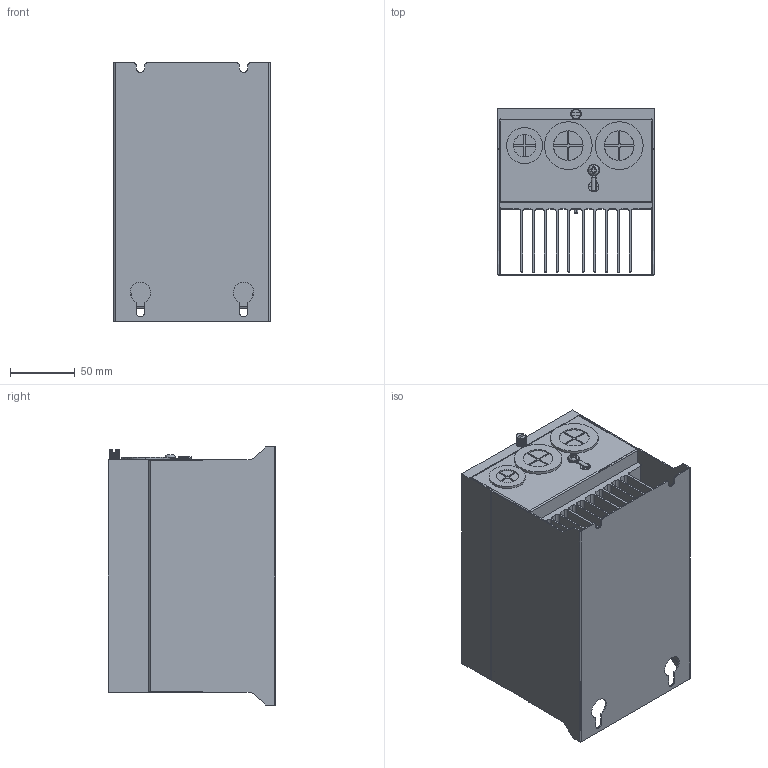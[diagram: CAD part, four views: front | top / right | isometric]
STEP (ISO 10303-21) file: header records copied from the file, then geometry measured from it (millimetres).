
FILE_DESCRIPTION((''),'2;1');
FILE_NAME('BRAKE_2015_ASM','2017-11-22T',('COLA.LIU'),(''),'PRO/ENGINEER BY PARAMETRIC TECHNOLOGY CORPORATION, 2012010','PRO/ENGINEER BY PARAMETRIC TECHNOLOGY CORPORATION, 2012010','');
FILE_SCHEMA(('AUTOMOTIVE_DESIGN { 1 2 10303 214 0 1 1 1 }'));
Length unit declared in the file: millimetre
Products named in the file (16): BODY-UP_33050197__; BODY-TOP_33050197__; HEAT_SINK__; SCREW_M4_31023___; STAND_OFF_01___; STAND_OFF_02___; OHD3-95M___; SCREW_M3_31003___; RUBBER_32400613__; RUBBER_32400612__; COVERY_33050195__; NAMEPLATE_32006436__; BRK-COVERY_____ASM; SCREW_31050362__; TERMINAL_30411042____; BRAKE_2015_ASM
Assembly tree (19 placements, depth 3):
  BRAKE_2015_ASM
    BODY-UP_33050197__
    BODY-TOP_33050197__
    HEAT_SINK__
    SCREW_M4_31023___  x4
    STAND_OFF_01___
    STAND_OFF_02___
    OHD3-95M___
    SCREW_M3_31003___
    RUBBER_32400613__
    RUBBER_32400612__  x2
    BRK-COVERY_____ASM
      COVERY_33050195__
      NAMEPLATE_32006436__
    SCREW_31050362__
    TERMINAL_30411042____
Bounding box: 121 x 129.5 x 200 mm (x, y, z)
Volume: 292544.6 mm3; surface area: 419587.6 mm2
Topology: 19 solids, 19 shells, 903 faces, 2380 edges, 1560 vertices
Faces by surface type: plane 551, cylinder 294, cone 34, bspline 10, torus 10, sphere 4
Entity records: 31884 total; most frequent: CARTESIAN_POINT 5395, ORIENTED_EDGE 4116, DIRECTION 4096, EDGE_CURVE 2058, PRESENTATION_STYLE_ASSIGNMENT 1783, STYLED_ITEM 1718, CURVE_STYLE 1706, AXIS2_PLACEMENT_3D 1409
